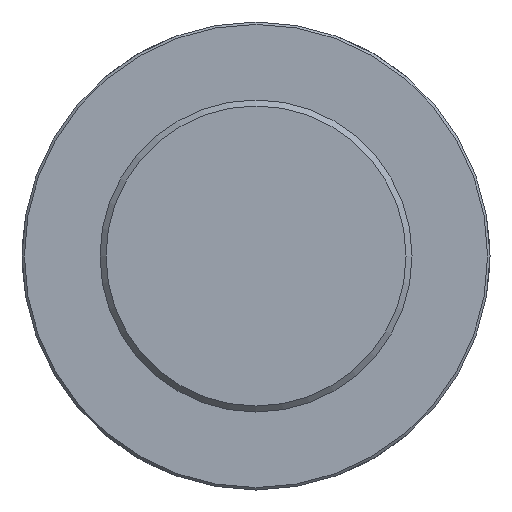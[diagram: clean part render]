
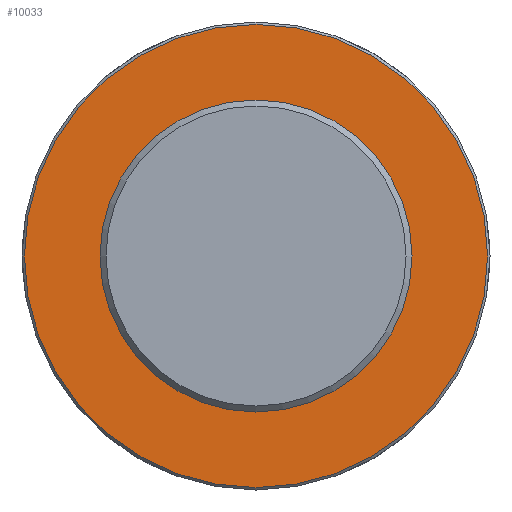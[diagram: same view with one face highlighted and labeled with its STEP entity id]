
A CAD part, front view. The second image highlights one B-rep face of the part: STEP entity #10033.
In plain terms, the highlighted planar face has unit normal (0, -1, 0) as drawn and (0, 1, 0) by its records, which use the part's own axes.
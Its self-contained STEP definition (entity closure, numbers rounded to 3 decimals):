
#73=CIRCLE('',#10393,193.);
#1488=FACE_OUTER_BOUND('',#2087,.T.);
#2087=EDGE_LOOP('',(#9217));
#4851=VERTEX_POINT('',#18365);
#6311=EDGE_CURVE('',#4851,#4851,#73,.T.);
#9217=ORIENTED_EDGE('',*,*,#6311,.F.);
#9502=PLANE('',#10396);
#10033=ADVANCED_FACE('',(#1488),#9502,.T.);
#10393=AXIS2_PLACEMENT_3D('',#18366,#11863,#11864);
#10396=AXIS2_PLACEMENT_3D('',#18604,#11869,#11870);
#11863=DIRECTION('center_axis',(0.,-1.,0.));
#11864=DIRECTION('ref_axis',(1.,0.,0.));
#11869=DIRECTION('center_axis',(0.,1.,0.));
#11870=DIRECTION('ref_axis',(0.,0.,1.));
#18365=CARTESIAN_POINT('',(-193.,180.,0.));
#18366=CARTESIAN_POINT('Origin',(0.,180.,0.));
#18604=CARTESIAN_POINT('Origin',(0.,180.,0.));
